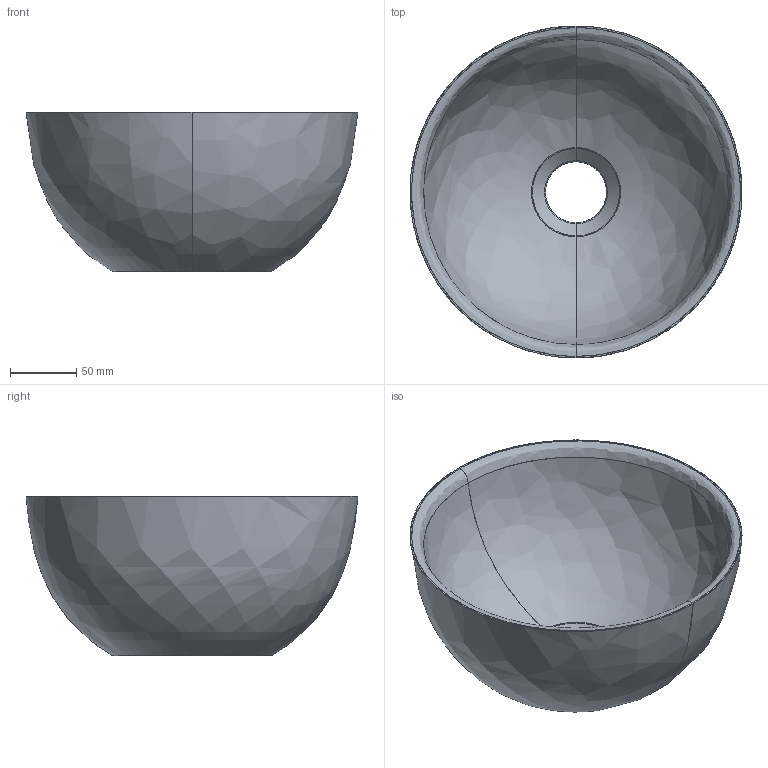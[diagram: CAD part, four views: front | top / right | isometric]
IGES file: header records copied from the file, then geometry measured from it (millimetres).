
Start section: SolidWorks IGES file using analytic representation for surfaces
Global section: file name: C:\Users\PC Lite\Desktop\2D_3D-PACKAGE\PAA-Washbasins-Do-25\PAA-Washbasins-Silkstone-Do-25-IDO25-XX-3D.IGS; native system: SolidWorks 2018; preprocessor: SolidWorks 2018; author: PC Lite; date: 240607.093441; units: millimetre
Bounding box: 250 x 250 x 120 mm (x, y, z)
Surface area: 187017.3 mm2 (no closed solid volume)
Topology: 0 solids, 0 shells, 16 faces, 248 edges, 248 vertices
Faces by surface type: bspline 12, revolution 4
